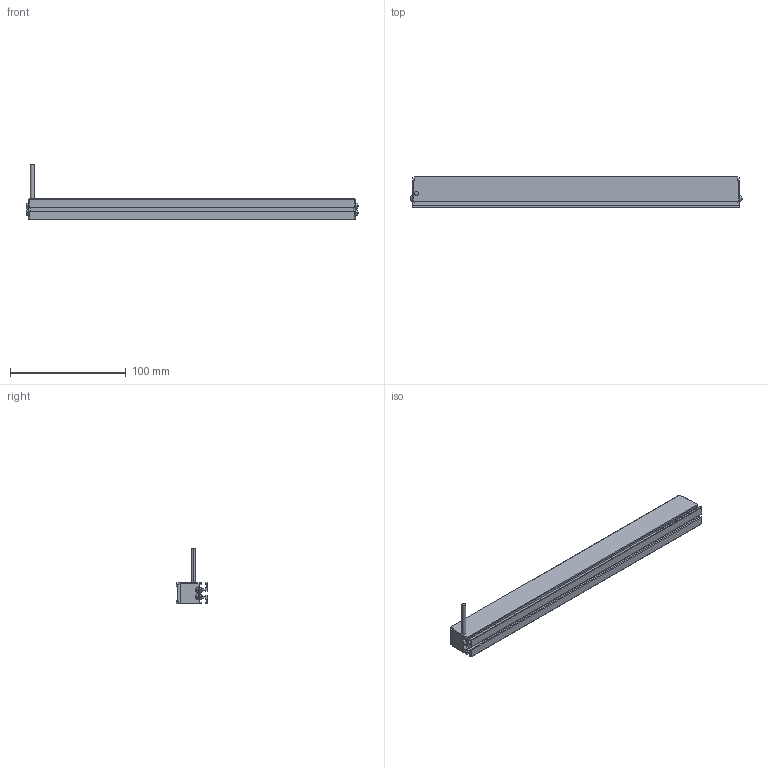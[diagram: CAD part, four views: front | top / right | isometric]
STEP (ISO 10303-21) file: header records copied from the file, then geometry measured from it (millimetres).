
FILE_DESCRIPTION((''),'2;1');
FILE_NAME('MV-LLDS-282-18_ASM','2020-12-29T',('Administrator'),(''),'PRO/ENGINEER BY PARAMETRIC TECHNOLOGY CORPORATION, 2010100','PRO/ENGINEER BY PARAMETRIC TECHNOLOGY CORPORATION, 2010100','');
FILE_SCHEMA(('CONFIG_CONTROL_DESIGN'));
Length unit declared in the file: millimetre
Products named in the file (3): BL_2_-_1_; M3-5_3; MV-LLDS-282-18_ASM
Assembly tree (5 placements, depth 2):
  MV-LLDS-282-18_ASM
    BL_2_-_1_
    M3-5_3  x4
Bounding box: 286.68 x 27 x 48 mm (x, y, z)
Volume: 112299.4 mm3; surface area: 51113.1 mm2
Topology: 5 solids, 13 shells, 281 faces, 736 edges, 472 vertices
Faces by surface type: plane 167, cylinder 66, cone 16, bspline 16, torus 8, sphere 8
Entity records: 5993 total; most frequent: CARTESIAN_POINT 1305, DIRECTION 952, ORIENTED_EDGE 942, EDGE_CURVE 481, VECTOR 340, LINE 340, VERTEX_POINT 313, AXIS2_PLACEMENT_3D 306
